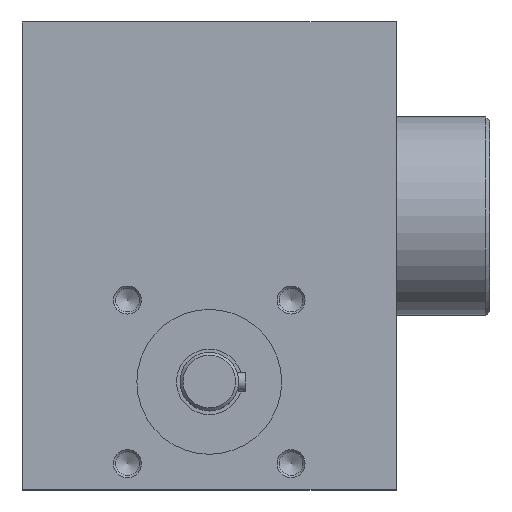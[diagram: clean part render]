
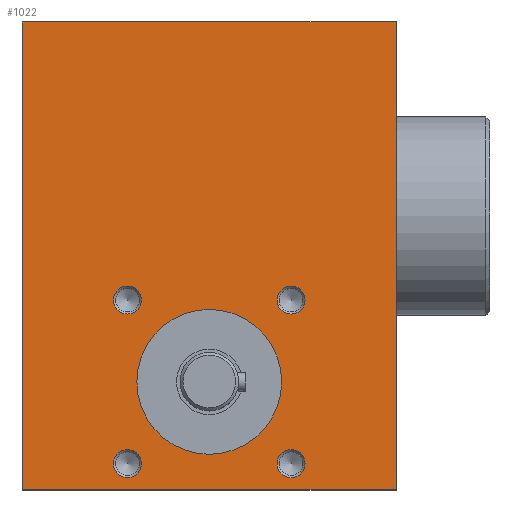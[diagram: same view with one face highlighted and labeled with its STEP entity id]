
A CAD part, top view. The second image highlights one B-rep face of the part: STEP entity #1022.
In plain terms, the highlighted planar face has unit normal (0, 0, 1).
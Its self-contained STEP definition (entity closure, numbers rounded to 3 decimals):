
#71=LINE('',#1619,#99);
#76=LINE('',#1727,#104);
#78=LINE('',#1731,#106);
#79=LINE('',#1732,#107);
#99=VECTOR('',#1256,200.);
#104=VECTOR('',#1393,160.);
#106=VECTOR('',#1397,160.);
#107=VECTOR('',#1398,200.);
#134=PLANE('',#1148);
#181=FACE_BOUND('',#376,.T.);
#182=FACE_BOUND('',#377,.T.);
#183=FACE_BOUND('',#378,.T.);
#184=FACE_BOUND('',#379,.T.);
#185=FACE_BOUND('',#380,.T.);
#254=FACE_OUTER_BOUND('',#375,.T.);
#375=EDGE_LOOP('',(#821,#822,#823,#824));
#376=EDGE_LOOP('',(#825));
#377=EDGE_LOOP('',(#826));
#378=EDGE_LOOP('',(#827));
#379=EDGE_LOOP('',(#828));
#380=EDGE_LOOP('',(#829));
#493=CIRCLE('',#1128,31.);
#503=CIRCLE('',#1149,6.);
#504=CIRCLE('',#1150,6.);
#505=CIRCLE('',#1151,6.);
#506=CIRCLE('',#1152,6.);
#546=VERTEX_POINT('',#1616);
#547=VERTEX_POINT('',#1618);
#572=VERTEX_POINT('',#1691);
#584=VERTEX_POINT('',#1726);
#585=VERTEX_POINT('',#1730);
#586=VERTEX_POINT('',#1733);
#587=VERTEX_POINT('',#1735);
#588=VERTEX_POINT('',#1737);
#589=VERTEX_POINT('',#1739);
#641=EDGE_CURVE('',#547,#546,#71,.T.);
#667=EDGE_CURVE('',#572,#572,#493,.T.);
#680=EDGE_CURVE('',#584,#547,#76,.T.);
#682=EDGE_CURVE('',#546,#585,#78,.T.);
#683=EDGE_CURVE('',#585,#584,#79,.T.);
#684=EDGE_CURVE('',#586,#586,#503,.T.);
#685=EDGE_CURVE('',#587,#587,#504,.T.);
#686=EDGE_CURVE('',#588,#588,#505,.T.);
#687=EDGE_CURVE('',#589,#589,#506,.T.);
#821=ORIENTED_EDGE('',*,*,#641,.T.);
#822=ORIENTED_EDGE('',*,*,#682,.T.);
#823=ORIENTED_EDGE('',*,*,#683,.T.);
#824=ORIENTED_EDGE('',*,*,#680,.T.);
#825=ORIENTED_EDGE('',*,*,#667,.T.);
#826=ORIENTED_EDGE('',*,*,#684,.T.);
#827=ORIENTED_EDGE('',*,*,#685,.T.);
#828=ORIENTED_EDGE('',*,*,#686,.T.);
#829=ORIENTED_EDGE('',*,*,#687,.T.);
#1022=ADVANCED_FACE('',(#254,#181,#182,#183,#184,#185),#134,.T.);
#1128=AXIS2_PLACEMENT_3D('',#1692,#1350,#1351);
#1148=AXIS2_PLACEMENT_3D('',#1729,#1395,#1396);
#1149=AXIS2_PLACEMENT_3D('',#1734,#1399,#1400);
#1150=AXIS2_PLACEMENT_3D('',#1736,#1401,#1402);
#1151=AXIS2_PLACEMENT_3D('',#1738,#1403,#1404);
#1152=AXIS2_PLACEMENT_3D('',#1740,#1405,#1406);
#1256=DIRECTION('',(0.,-1.,0.));
#1350=DIRECTION('center_axis',(0.,0.,-1.));
#1351=DIRECTION('ref_axis',(-1.,0.,0.));
#1393=DIRECTION('',(-1.,0.,0.));
#1395=DIRECTION('center_axis',(0.,0.,1.));
#1396=DIRECTION('ref_axis',(1.,0.,0.));
#1397=DIRECTION('',(1.,0.,0.));
#1398=DIRECTION('',(0.,1.,0.));
#1399=DIRECTION('center_axis',(0.,0.,-1.));
#1400=DIRECTION('ref_axis',(-1.,0.,0.));
#1401=DIRECTION('center_axis',(0.,0.,-1.));
#1402=DIRECTION('ref_axis',(-1.,0.,0.));
#1403=DIRECTION('center_axis',(0.,0.,-1.));
#1404=DIRECTION('ref_axis',(-1.,0.,0.));
#1405=DIRECTION('center_axis',(0.,0.,-1.));
#1406=DIRECTION('ref_axis',(-1.,0.,0.));
#1616=CARTESIAN_POINT('',(0.,-117.,82.5));
#1618=CARTESIAN_POINT('',(0.,83.,82.5));
#1619=CARTESIAN_POINT('',(0.,83.,82.5));
#1691=CARTESIAN_POINT('',(49.,-71.,82.5));
#1692=CARTESIAN_POINT('Origin',(80.,-71.,82.5));
#1726=CARTESIAN_POINT('',(160.,83.,82.5));
#1727=CARTESIAN_POINT('',(160.,83.,82.5));
#1729=CARTESIAN_POINT('Origin',(0.,0.,82.5));
#1730=CARTESIAN_POINT('',(160.,-117.,82.5));
#1731=CARTESIAN_POINT('',(0.,-117.,82.5));
#1732=CARTESIAN_POINT('',(160.,-117.,82.5));
#1733=CARTESIAN_POINT('',(109.,-106.,82.5));
#1734=CARTESIAN_POINT('Origin',(115.,-106.,82.5));
#1735=CARTESIAN_POINT('',(39.,-36.,82.5));
#1736=CARTESIAN_POINT('Origin',(45.,-36.,82.5));
#1737=CARTESIAN_POINT('',(109.,-36.,82.5));
#1738=CARTESIAN_POINT('Origin',(115.,-36.,82.5));
#1739=CARTESIAN_POINT('',(39.,-106.,82.5));
#1740=CARTESIAN_POINT('Origin',(45.,-106.,82.5));
